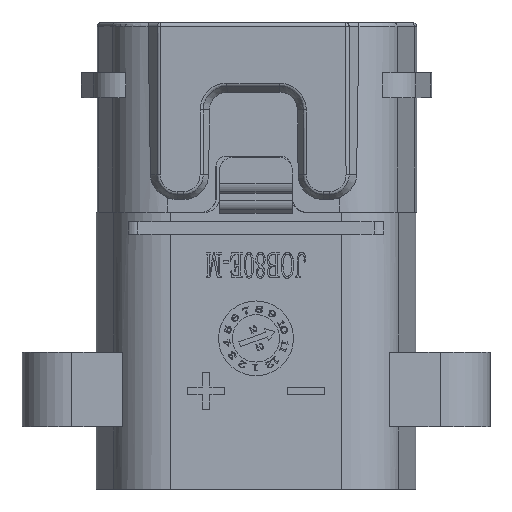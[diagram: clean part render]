
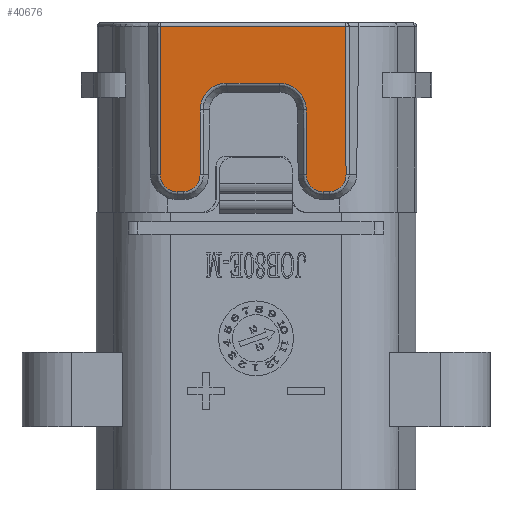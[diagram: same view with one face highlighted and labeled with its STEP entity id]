
A CAD part, front view. The second image highlights one B-rep face of the part: STEP entity #40676.
In plain terms, the highlighted planar face has unit normal (-0.03, -0.999, -0.018) as drawn and (0, -1, -0.017) by its records, which use the part's own axes.
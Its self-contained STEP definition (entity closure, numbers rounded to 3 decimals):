
#35828=DIRECTION('',(-1.,0.,0.));
#35829=VECTOR('',#35828,14.888);
#35830=CARTESIAN_POINT('',(7.444,-18.194,
23.036));
#35831=LINE('',#35830,#35829);
#37440=CARTESIAN_POINT('',(-7.444,-17.986,
11.142));
#37441=CARTESIAN_POINT('',(-7.443,-17.984,
11.034));
#37442=CARTESIAN_POINT('',(-7.418,-17.98,
10.827));
#37443=CARTESIAN_POINT('',(-7.318,-17.976,
10.548));
#37444=CARTESIAN_POINT('',(-7.152,-17.971,
10.287));
#37445=CARTESIAN_POINT('',(-6.932,-17.967,
10.072));
#37446=CARTESIAN_POINT('',(-6.676,-17.964,
9.915));
#37447=CARTESIAN_POINT('',(-6.396,-17.963,
9.82));
#37448=CARTESIAN_POINT('',(-6.2,-17.962,
9.798));
#37449=CARTESIAN_POINT('',(-6.1,-17.962,
9.798));
#37466=DIRECTION('',(0.,-0.017,1.));
#37467=VECTOR('',#37466,11.897);
#37468=CARTESIAN_POINT('',(-7.444,-17.986,
11.142));
#37469=LINE('',#37468,#37467);
#37470=DIRECTION('',(0.,0.017,-1.));
#37471=VECTOR('',#37470,11.897);
#37472=CARTESIAN_POINT('',(7.444,-18.194,
23.036));
#37473=LINE('',#37472,#37471);
#37474=DIRECTION('',(-1.,0.,0.));
#37475=VECTOR('',#37474,0.5);
#37476=CARTESIAN_POINT('',(6.1,-17.962,
9.798));
#37477=LINE('',#37476,#37475);
#37478=DIRECTION('',(0.,-0.017,1.));
#37479=VECTOR('',#37478,5.201);
#37480=CARTESIAN_POINT('',(4.256,-17.986,
11.142));
#37481=LINE('',#37480,#37479);
#37482=DIRECTION('',(-1.,0.,0.));
#37483=VECTOR('',#37482,4.2);
#37484=CARTESIAN_POINT('',(2.1,-18.114,
18.498));
#37485=LINE('',#37484,#37483);
#37486=DIRECTION('',(0.,0.017,-1.));
#37487=VECTOR('',#37486,5.201);
#37488=CARTESIAN_POINT('',(-4.256,-18.077,
16.342));
#37489=LINE('',#37488,#37487);
#37490=DIRECTION('',(-1.,0.,0.));
#37491=VECTOR('',#37490,0.5);
#37492=CARTESIAN_POINT('',(-5.6,-17.962,
9.798));
#37493=LINE('',#37492,#37491);
#37499=CARTESIAN_POINT('',(6.1,-17.962,
9.798));
#37500=CARTESIAN_POINT('',(6.208,-17.962,
9.799));
#37501=CARTESIAN_POINT('',(6.414,-17.963,
9.823));
#37502=CARTESIAN_POINT('',(6.694,-17.965,
9.924));
#37503=CARTESIAN_POINT('',(6.954,-17.968,
10.089));
#37504=CARTESIAN_POINT('',(7.17,-17.971,
10.31));
#37505=CARTESIAN_POINT('',(7.326,-17.976,
10.566));
#37506=CARTESIAN_POINT('',(7.422,-17.981,
10.846));
#37507=CARTESIAN_POINT('',(7.443,-17.984,
11.041));
#37508=CARTESIAN_POINT('',(7.444,-17.986,
11.142));
#37525=CARTESIAN_POINT('',(4.256,-17.986,
11.142));
#37526=CARTESIAN_POINT('',(4.257,-17.984,
11.034));
#37527=CARTESIAN_POINT('',(4.281,-17.98,
10.828));
#37528=CARTESIAN_POINT('',(4.382,-17.976,
10.549));
#37529=CARTESIAN_POINT('',(4.546,-17.971,
10.289));
#37530=CARTESIAN_POINT('',(4.767,-17.967,
10.073));
#37531=CARTESIAN_POINT('',(5.023,-17.964,
9.916));
#37532=CARTESIAN_POINT('',(5.303,-17.963,
9.82));
#37533=CARTESIAN_POINT('',(5.499,-17.962,
9.798));
#37534=CARTESIAN_POINT('',(5.6,-17.962,
9.798));
#37551=CARTESIAN_POINT('',(2.1,-18.114,
18.498));
#37552=CARTESIAN_POINT('',(2.247,-18.114,
18.497));
#37553=CARTESIAN_POINT('',(2.533,-18.114,
18.468));
#37554=CARTESIAN_POINT('',(2.936,-18.112,
18.343));
#37555=CARTESIAN_POINT('',(3.305,-18.108,
18.146));
#37556=CARTESIAN_POINT('',(3.639,-18.103,
17.872));
#37557=CARTESIAN_POINT('',(3.909,-18.098,
17.539));
#37558=CARTESIAN_POINT('',(4.105,-18.091,
17.17));
#37559=CARTESIAN_POINT('',(4.228,-18.084,
16.768));
#37560=CARTESIAN_POINT('',(4.255,-18.079,
16.486));
#37561=CARTESIAN_POINT('',(4.256,-18.077,
16.342));
#37668=CARTESIAN_POINT('',(-5.6,-17.962,
9.798));
#37669=CARTESIAN_POINT('',(-5.493,-17.962,
9.799));
#37670=CARTESIAN_POINT('',(-5.287,-17.963,
9.823));
#37671=CARTESIAN_POINT('',(-5.007,-17.965,
9.923));
#37672=CARTESIAN_POINT('',(-4.747,-17.967,
10.088));
#37673=CARTESIAN_POINT('',(-4.531,-17.971,
10.308));
#37674=CARTESIAN_POINT('',(-4.374,-17.976,
10.565));
#37675=CARTESIAN_POINT('',(-4.279,-17.981,
10.844));
#37676=CARTESIAN_POINT('',(-4.257,-17.984,
11.04));
#37677=CARTESIAN_POINT('',(-4.256,-17.986,
11.142));
#37717=CARTESIAN_POINT('',(-4.256,-18.077,
16.342));
#37718=CARTESIAN_POINT('',(-4.255,-18.079,
16.489));
#37719=CARTESIAN_POINT('',(-4.227,-18.084,
16.775));
#37720=CARTESIAN_POINT('',(-4.102,-18.091,
17.177));
#37721=CARTESIAN_POINT('',(-3.905,-18.098,
17.546));
#37722=CARTESIAN_POINT('',(-3.631,-18.104,
17.88));
#37723=CARTESIAN_POINT('',(-3.298,-18.108,
18.151));
#37724=CARTESIAN_POINT('',(-2.928,-18.112,
18.347));
#37725=CARTESIAN_POINT('',(-2.527,-18.114,
18.469));
#37726=CARTESIAN_POINT('',(-2.245,-18.114,
18.497));
#37727=CARTESIAN_POINT('',(-2.1,-18.114,
18.498));
#37834=CARTESIAN_POINT('',(-7.444,-18.194,
23.036));
#37835=VERTEX_POINT('',#37834);
#37836=CARTESIAN_POINT('',(-7.444,-17.986,
11.142));
#37837=VERTEX_POINT('',#37836);
#37838=CARTESIAN_POINT('',(7.444,-18.194,
23.036));
#37839=VERTEX_POINT('',#37838);
#38236=VERTEX_POINT('',#37449);
#38237=CARTESIAN_POINT('',(7.444,-17.986,
11.142));
#38238=VERTEX_POINT('',#38237);
#38239=VERTEX_POINT('',#37499);
#38240=CARTESIAN_POINT('',(5.6,-17.962,
9.798));
#38241=VERTEX_POINT('',#38240);
#38242=VERTEX_POINT('',#37525);
#38243=CARTESIAN_POINT('',(4.256,-18.077,
16.342));
#38244=VERTEX_POINT('',#38243);
#38245=VERTEX_POINT('',#37551);
#38246=CARTESIAN_POINT('',(-2.1,-18.114,
18.498));
#38247=VERTEX_POINT('',#38246);
#38248=VERTEX_POINT('',#37717);
#38249=CARTESIAN_POINT('',(-4.256,-17.986,
11.142));
#38250=VERTEX_POINT('',#38249);
#38251=VERTEX_POINT('',#37668);
#40644=CARTESIAN_POINT('',(0.162,-18.251,
26.342));
#40645=DIRECTION('',(0.,1.,0.017));
#40646=DIRECTION('',(0.,-0.017,1.));
#40647=AXIS2_PLACEMENT_3D('',#40644,#40645,#40646);
#40648=PLANE('',#40647);
#40649=ORIENTED_EDGE('',*,*,#38435,.T.);
#40650=ORIENTED_EDGE('',*,*,#38461,.F.);
#40652=ORIENTED_EDGE('',*,*,#40651,.T.);
#40654=ORIENTED_EDGE('',*,*,#40653,.F.);
#40656=ORIENTED_EDGE('',*,*,#40655,.T.);
#40658=ORIENTED_EDGE('',*,*,#40657,.F.);
#40660=ORIENTED_EDGE('',*,*,#40659,.T.);
#40662=ORIENTED_EDGE('',*,*,#40661,.F.);
#40664=ORIENTED_EDGE('',*,*,#40663,.T.);
#40666=ORIENTED_EDGE('',*,*,#40665,.F.);
#40668=ORIENTED_EDGE('',*,*,#40667,.T.);
#40670=ORIENTED_EDGE('',*,*,#40669,.F.);
#40672=ORIENTED_EDGE('',*,*,#40671,.T.);
#40673=ORIENTED_EDGE('',*,*,#40635,.F.);
#40674=EDGE_LOOP('',(#40649,#40650,#40652,#40654,#40656,#40658,#40660,#40662,
#40664,#40666,#40668,#40670,#40672,#40673));
#40675=FACE_OUTER_BOUND('',#40674,.F.);
#40676=ADVANCED_FACE('',(#40675),#40648,.F.);
#37450=B_SPLINE_CURVE_WITH_KNOTS('',3,(#37440,#37441,#37442,#37443,#37444,
#37445,#37446,#37447,#37448,#37449),.UNSPECIFIED.,.F.,.F.,(4,1,1,1,1,1,1,4),(
0.,0.143,0.286,0.429,0.571,
0.714,0.857,1.),.UNSPECIFIED.);
#37509=B_SPLINE_CURVE_WITH_KNOTS('',3,(#37499,#37500,#37501,#37502,#37503,
#37504,#37505,#37506,#37507,#37508),.UNSPECIFIED.,.F.,.F.,(4,1,1,1,1,1,1,4),(
0.,0.143,0.286,0.429,0.571,
0.714,0.857,1.),.UNSPECIFIED.);
#37535=B_SPLINE_CURVE_WITH_KNOTS('',3,(#37525,#37526,#37527,#37528,#37529,
#37530,#37531,#37532,#37533,#37534),.UNSPECIFIED.,.F.,.F.,(4,1,1,1,1,1,1,4),(
0.,0.143,0.286,0.429,0.571,
0.714,0.857,1.),.UNSPECIFIED.);
#37562=B_SPLINE_CURVE_WITH_KNOTS('',3,(#37551,#37552,#37553,#37554,#37555,
#37556,#37557,#37558,#37559,#37560,#37561),.UNSPECIFIED.,.F.,.F.,(4,1,1,1,1,1,1,
1,4),(0.,0.125,0.25,0.375,0.5,0.625,0.75,0.875,1.),
.UNSPECIFIED.);
#37678=B_SPLINE_CURVE_WITH_KNOTS('',3,(#37668,#37669,#37670,#37671,#37672,
#37673,#37674,#37675,#37676,#37677),.UNSPECIFIED.,.F.,.F.,(4,1,1,1,1,1,1,4),(
0.,0.143,0.286,0.429,0.571,
0.714,0.857,1.),.UNSPECIFIED.);
#37728=B_SPLINE_CURVE_WITH_KNOTS('',3,(#37717,#37718,#37719,#37720,#37721,
#37722,#37723,#37724,#37725,#37726,#37727),.UNSPECIFIED.,.F.,.F.,(4,1,1,1,1,1,1,
1,4),(0.,0.125,0.25,0.375,0.5,0.625,0.75,0.875,1.),
.UNSPECIFIED.);
#38435=EDGE_CURVE('',#37837,#37835,#37469,.T.);
#38461=EDGE_CURVE('',#37839,#37835,#35831,.T.);
#40635=EDGE_CURVE('',#37837,#38236,#37450,.T.);
#40651=EDGE_CURVE('',#37839,#38238,#37473,.T.);
#40653=EDGE_CURVE('',#38239,#38238,#37509,.T.);
#40655=EDGE_CURVE('',#38239,#38241,#37477,.T.);
#40657=EDGE_CURVE('',#38242,#38241,#37535,.T.);
#40659=EDGE_CURVE('',#38242,#38244,#37481,.T.);
#40661=EDGE_CURVE('',#38245,#38244,#37562,.T.);
#40663=EDGE_CURVE('',#38245,#38247,#37485,.T.);
#40665=EDGE_CURVE('',#38248,#38247,#37728,.T.);
#40667=EDGE_CURVE('',#38248,#38250,#37489,.T.);
#40669=EDGE_CURVE('',#38251,#38250,#37678,.T.);
#40671=EDGE_CURVE('',#38251,#38236,#37493,.T.);
